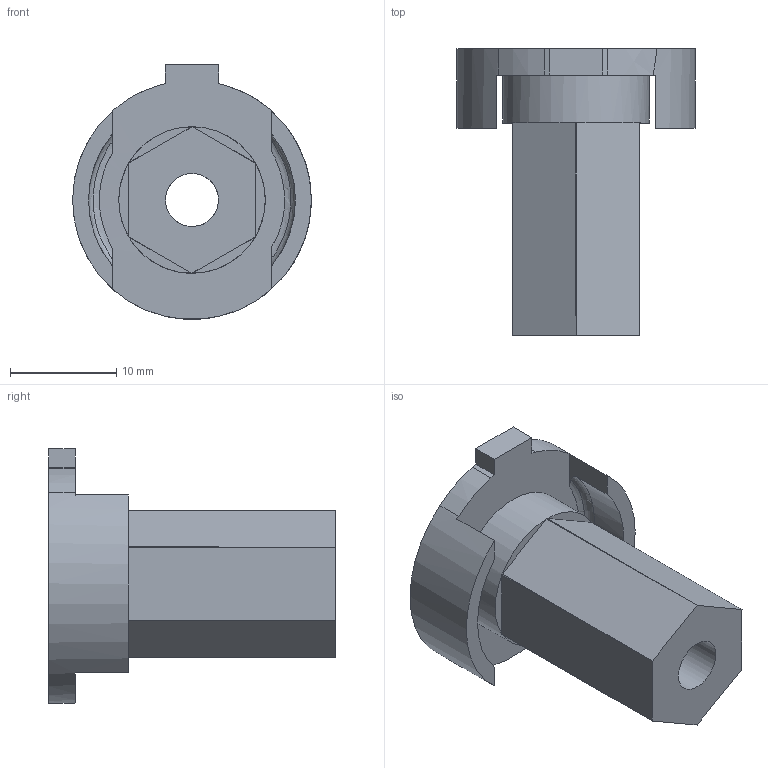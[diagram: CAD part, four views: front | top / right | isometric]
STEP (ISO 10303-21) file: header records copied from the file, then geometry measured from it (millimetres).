
FILE_DESCRIPTION(('Open CASCADE Model'),'2;1');
FILE_NAME('Open CASCADE Shape Model','2026-10-27T00:36:50',('Author'),( 'Open CASCADE'),'Open CASCADE STEP processor 7.9','Open CASCADE 7.9' ,'Unknown');
FILE_SCHEMA(('AUTOMOTIVE_DESIGN { 1 0 10303 214 1 1 1 1 }'));
Length unit declared in the file: millimetre
Products named in the file (1): Open CASCADE STEP translator 7.9 2
Bounding box: 22.5 x 27 x 24 mm (x, y, z)
Volume: 3009.6 mm3; surface area: 3085.8 mm2
Topology: 1 solids, 1 shells, 42 faces, 109 edges, 71 vertices
Faces by surface type: plane 31, cylinder 5, torus 4, bspline 2
Full cylindrical faces by diameter (mm): 5 x1, 13.8 x1
Entity records: 5166 total; most frequent: CARTESIAN_POINT 3157, DIRECTION 313, ORIENTED_EDGE 218, PCURVE 218, DEFINITIONAL_REPRESENTATION 218, LINE 173, VECTOR 173, EDGE_CURVE 109
